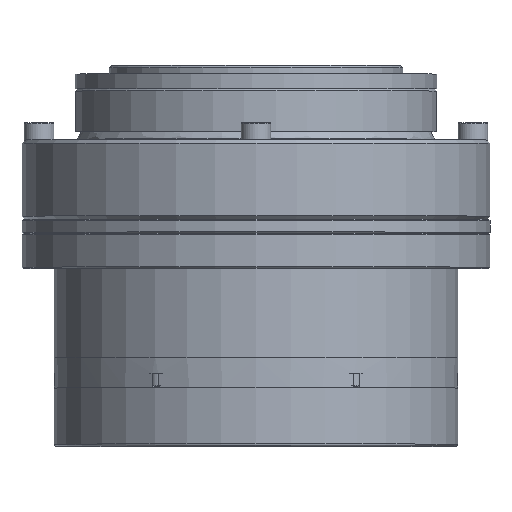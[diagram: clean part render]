
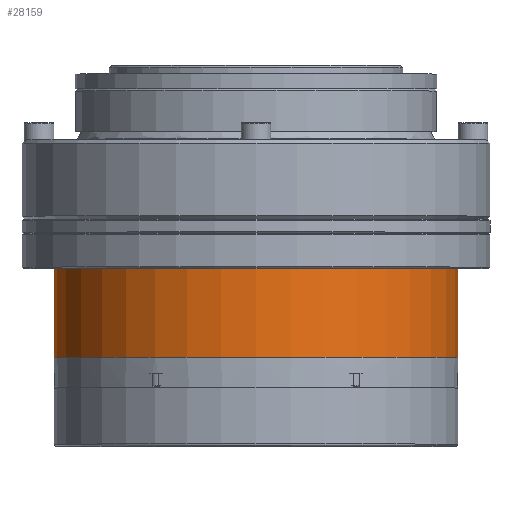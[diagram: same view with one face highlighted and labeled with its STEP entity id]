
A CAD part, top view. The second image highlights one B-rep face of the part: STEP entity #28159.
In plain terms, the highlighted cylindrical face has radius 47.4 mm (diameter 94.8 mm), a full revolution.
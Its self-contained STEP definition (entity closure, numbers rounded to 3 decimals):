
#1461 = VERTEX_POINT ( 'NONE', #30534 ) ;
#2570 = CYLINDRICAL_SURFACE ( 'NONE', #11537, 47.4 ) ;
#3475 = DIRECTION ( 'NONE',  ( 0., 0., -1. ) ) ;
#5173 = DIRECTION ( 'NONE',  ( 0., 0., 1. ) ) ;
#9294 = DIRECTION ( 'NONE',  ( 0., 0., -1. ) ) ;
#10448 = CARTESIAN_POINT ( 'NONE',  ( 0., -4.7, 0. ) ) ;
#10583 = ORIENTED_EDGE ( 'NONE', *, *, #18393, .F. ) ;
#11246 = CARTESIAN_POINT ( 'NONE',  ( 0., -25.6, 0. ) ) ;
#11360 = VERTEX_POINT ( 'NONE', #25978 ) ;
#11537 = AXIS2_PLACEMENT_3D ( 'NONE', #22536, #12465, #5173 ) ;
#12465 = DIRECTION ( 'NONE',  ( 0., 1., 0. ) ) ;
#15277 = AXIS2_PLACEMENT_3D ( 'NONE', #10448, #15782, #3475 ) ;
#15782 = DIRECTION ( 'NONE',  ( 0., -1., 0. ) ) ;
#16857 = ORIENTED_EDGE ( 'NONE', *, *, #18210, .T. ) ;
#17507 = FACE_OUTER_BOUND ( 'NONE', #26825, .T. ) ;
#18210 = EDGE_CURVE ( 'NONE', #11360, #11360, #29296, .T. ) ;
#18393 = EDGE_CURVE ( 'NONE', #1461, #1461, #20502, .T. ) ;
#20502 = CIRCLE ( 'NONE', #21549, 47.4 ) ;
#21549 = AXIS2_PLACEMENT_3D ( 'NONE', #11246, #24062, #9294 ) ;
#22536 = CARTESIAN_POINT ( 'NONE',  ( 0., -25.6, 0. ) ) ;
#24062 = DIRECTION ( 'NONE',  ( 0., -1., 0. ) ) ;
#25978 = CARTESIAN_POINT ( 'NONE',  ( 0., -4.7, -47.4 ) ) ;
#26825 = EDGE_LOOP ( 'NONE', ( #10583 ) ) ;
#27396 = FACE_OUTER_BOUND ( 'NONE', #28140, .T. ) ;
#28140 = EDGE_LOOP ( 'NONE', ( #16857 ) ) ;
#28159 = ADVANCED_FACE ( 'NONE', ( #17507, #27396 ), #2570, .T. ) ;
#29296 = CIRCLE ( 'NONE', #15277, 47.4 ) ;
#30534 = CARTESIAN_POINT ( 'NONE',  ( 0., -25.6, -47.4 ) ) ;
